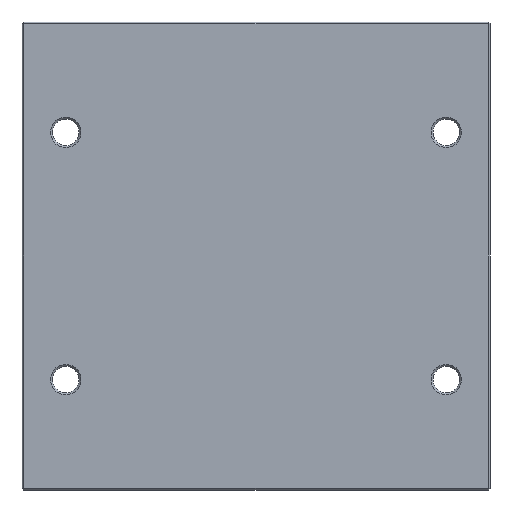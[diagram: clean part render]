
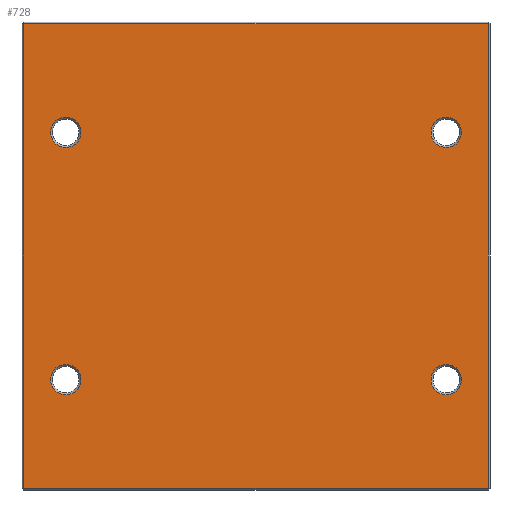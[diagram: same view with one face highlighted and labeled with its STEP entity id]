
A CAD part, front view. The second image highlights one B-rep face of the part: STEP entity #728.
In plain terms, the highlighted planar face has unit normal (0, -1, 0).
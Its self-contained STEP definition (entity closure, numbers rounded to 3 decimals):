
#14 = DIRECTION ( 'NONE',  ( 0., 0., 1. ) ) ;
#36 = CARTESIAN_POINT ( 'NONE',  ( 122., 0., 0. ) ) ;
#40 = CARTESIAN_POINT ( 'NONE',  ( -122., 0., -122. ) ) ;
#43 = DIRECTION ( 'NONE',  ( 0., 0., 1. ) ) ;
#46 = LINE ( 'NONE', #891, #732 ) ;
#56 = CARTESIAN_POINT ( 'NONE',  ( 100., 0., 65. ) ) ;
#64 = ORIENTED_EDGE ( 'NONE', *, *, #1233, .T. ) ;
#68 = CARTESIAN_POINT ( 'NONE',  ( 100., 0., 65. ) ) ;
#96 = DIRECTION ( 'NONE',  ( 0., 1., 0. ) ) ;
#103 = CARTESIAN_POINT ( 'NONE',  ( 0., 0., 0. ) ) ;
#142 = ORIENTED_EDGE ( 'NONE', *, *, #1007, .T. ) ;
#164 = DIRECTION ( 'NONE',  ( 0., 1., 0. ) ) ;
#203 = DIRECTION ( 'NONE',  ( 0., 0., 1. ) ) ;
#216 = FACE_BOUND ( 'NONE', #1556, .T. ) ;
#219 = DIRECTION ( 'NONE',  ( 0., 0., 1. ) ) ;
#225 = ORIENTED_EDGE ( 'NONE', *, *, #1225, .T. ) ;
#242 = CARTESIAN_POINT ( 'NONE',  ( -100., 0., -65. ) ) ;
#249 = DIRECTION ( 'NONE',  ( 0., 1., 0. ) ) ;
#268 = DIRECTION ( 'NONE',  ( 0., 0., 1. ) ) ;
#283 = AXIS2_PLACEMENT_3D ( 'NONE', #425, #373, #203 ) ;
#317 = ORIENTED_EDGE ( 'NONE', *, *, #1163, .T. ) ;
#341 = CARTESIAN_POINT ( 'NONE',  ( 100., 0., -73. ) ) ;
#373 = DIRECTION ( 'NONE',  ( 0., 1., 0. ) ) ;
#377 = EDGE_LOOP ( 'NONE', ( #142, #433 ) ) ;
#383 = EDGE_CURVE ( 'NONE', #1360, #664, #1285, .T. ) ;
#388 = VERTEX_POINT ( 'NONE', #341 ) ;
#401 = AXIS2_PLACEMENT_3D ( 'NONE', #68, #975, #980 ) ;
#410 = CIRCLE ( 'NONE', #1302, 8. ) ;
#425 = CARTESIAN_POINT ( 'NONE',  ( -100., 0., -65. ) ) ;
#429 = CIRCLE ( 'NONE', #814, 8. ) ;
#433 = ORIENTED_EDGE ( 'NONE', *, *, #1375, .T. ) ;
#438 = CARTESIAN_POINT ( 'NONE',  ( -122., 0., 122. ) ) ;
#461 = VERTEX_POINT ( 'NONE', #438 ) ;
#485 = AXIS2_PLACEMENT_3D ( 'NONE', #56, #96, #43 ) ;
#494 = VECTOR ( 'NONE', #994, 1000. ) ;
#498 = CARTESIAN_POINT ( 'NONE',  ( 100., 0., 57. ) ) ;
#515 = AXIS2_PLACEMENT_3D ( 'NONE', #103, #1084, #219 ) ;
#533 = CIRCLE ( 'NONE', #735, 8. ) ;
#547 = FACE_BOUND ( 'NONE', #679, .T. ) ;
#570 = CIRCLE ( 'NONE', #782, 8. ) ;
#592 = FACE_BOUND ( 'NONE', #1566, .T. ) ;
#622 = EDGE_CURVE ( 'NONE', #388, #889, #717, .T. ) ;
#627 = AXIS2_PLACEMENT_3D ( 'NONE', #955, #960, #986 ) ;
#660 = CARTESIAN_POINT ( 'NONE',  ( -100., 0., 65. ) ) ;
#664 = VERTEX_POINT ( 'NONE', #1094 ) ;
#679 = EDGE_LOOP ( 'NONE', ( #317, #707 ) ) ;
#707 = ORIENTED_EDGE ( 'NONE', *, *, #984, .T. ) ;
#717 = CIRCLE ( 'NONE', #627, 8. ) ;
#728 = ADVANCED_FACE ( 'NONE', ( #216, #592, #1197, #547, #1512 ), #1622, .F. ) ;
#732 = VECTOR ( 'NONE', #1031, 1000. ) ;
#735 = AXIS2_PLACEMENT_3D ( 'NONE', #242, #249, #268 ) ;
#745 = VERTEX_POINT ( 'NONE', #1502 ) ;
#763 = CARTESIAN_POINT ( 'NONE',  ( -100., 0., 57. ) ) ;
#774 = ORIENTED_EDGE ( 'NONE', *, *, #1196, .T. ) ;
#782 = AXIS2_PLACEMENT_3D ( 'NONE', #852, #869, #892 ) ;
#795 = EDGE_CURVE ( 'NONE', #922, #1523, #1157, .T. ) ;
#814 = AXIS2_PLACEMENT_3D ( 'NONE', #1379, #1254, #1246 ) ;
#833 = CIRCLE ( 'NONE', #485, 8. ) ;
#835 = VECTOR ( 'NONE', #14, 1000. ) ;
#852 = CARTESIAN_POINT ( 'NONE',  ( -100., 0., 65. ) ) ;
#855 = ORIENTED_EDGE ( 'NONE', *, *, #1020, .T. ) ;
#869 = DIRECTION ( 'NONE',  ( 0., 1., 0. ) ) ;
#873 = LINE ( 'NONE', #36, #835 ) ;
#883 = VERTEX_POINT ( 'NONE', #763 ) ;
#889 = VERTEX_POINT ( 'NONE', #1143 ) ;
#891 = CARTESIAN_POINT ( 'NONE',  ( 0., 0., 122. ) ) ;
#892 = DIRECTION ( 'NONE',  ( 0., 0., 1. ) ) ;
#906 = CIRCLE ( 'NONE', #283, 8. ) ;
#922 = VERTEX_POINT ( 'NONE', #498 ) ;
#955 = CARTESIAN_POINT ( 'NONE',  ( 100., 0., -65. ) ) ;
#960 = DIRECTION ( 'NONE',  ( 0., 1., 0. ) ) ;
#971 = CARTESIAN_POINT ( 'NONE',  ( -122., 0., 0. ) ) ;
#975 = DIRECTION ( 'NONE',  ( 0., 1., 0. ) ) ;
#980 = DIRECTION ( 'NONE',  ( 0., 0., 1. ) ) ;
#984 = EDGE_CURVE ( 'NONE', #745, #1077, #533, .T. ) ;
#986 = DIRECTION ( 'NONE',  ( 0., 0., 1. ) ) ;
#994 = DIRECTION ( 'NONE',  ( 0., 0., -1. ) ) ;
#1007 = EDGE_CURVE ( 'NONE', #883, #1092, #570, .T. ) ;
#1020 = EDGE_CURVE ( 'NONE', #461, #1360, #1139, .T. ) ;
#1030 = DIRECTION ( 'NONE',  ( 0., 0., 1. ) ) ;
#1031 = DIRECTION ( 'NONE',  ( -1., 0., 0. ) ) ;
#1077 = VERTEX_POINT ( 'NONE', #1660 ) ;
#1084 = DIRECTION ( 'NONE',  ( 0., 1., 0. ) ) ;
#1092 = VERTEX_POINT ( 'NONE', #1107 ) ;
#1093 = CARTESIAN_POINT ( 'NONE',  ( 122., 0., 122. ) ) ;
#1094 = CARTESIAN_POINT ( 'NONE',  ( 122., 0., -122. ) ) ;
#1107 = CARTESIAN_POINT ( 'NONE',  ( -100., 0., 73. ) ) ;
#1139 = LINE ( 'NONE', #971, #494 ) ;
#1143 = CARTESIAN_POINT ( 'NONE',  ( 100., 0., -57. ) ) ;
#1157 = CIRCLE ( 'NONE', #401, 8. ) ;
#1163 = EDGE_CURVE ( 'NONE', #1077, #745, #906, .T. ) ;
#1196 = EDGE_CURVE ( 'NONE', #664, #1592, #873, .T. ) ;
#1197 = FACE_BOUND ( 'NONE', #377, .T. ) ;
#1225 = EDGE_CURVE ( 'NONE', #889, #388, #429, .T. ) ;
#1233 = EDGE_CURVE ( 'NONE', #1592, #461, #46, .T. ) ;
#1246 = DIRECTION ( 'NONE',  ( 0., 0., 1. ) ) ;
#1248 = EDGE_LOOP ( 'NONE', ( #774, #64, #855, #1346 ) ) ;
#1254 = DIRECTION ( 'NONE',  ( 0., 1., 0. ) ) ;
#1256 = ORIENTED_EDGE ( 'NONE', *, *, #795, .T. ) ;
#1276 = DIRECTION ( 'NONE',  ( 1., 0., 0. ) ) ;
#1285 = LINE ( 'NONE', #1434, #1611 ) ;
#1302 = AXIS2_PLACEMENT_3D ( 'NONE', #660, #164, #1030 ) ;
#1310 = ORIENTED_EDGE ( 'NONE', *, *, #1496, .T. ) ;
#1346 = ORIENTED_EDGE ( 'NONE', *, *, #383, .T. ) ;
#1360 = VERTEX_POINT ( 'NONE', #40 ) ;
#1375 = EDGE_CURVE ( 'NONE', #1092, #883, #410, .T. ) ;
#1379 = CARTESIAN_POINT ( 'NONE',  ( 100., 0., -65. ) ) ;
#1434 = CARTESIAN_POINT ( 'NONE',  ( 0., 0., -122. ) ) ;
#1496 = EDGE_CURVE ( 'NONE', #1523, #922, #833, .T. ) ;
#1502 = CARTESIAN_POINT ( 'NONE',  ( -100., 0., -57. ) ) ;
#1512 = FACE_OUTER_BOUND ( 'NONE', #1248, .T. ) ;
#1523 = VERTEX_POINT ( 'NONE', #1569 ) ;
#1524 = ORIENTED_EDGE ( 'NONE', *, *, #622, .T. ) ;
#1556 = EDGE_LOOP ( 'NONE', ( #1524, #225 ) ) ;
#1566 = EDGE_LOOP ( 'NONE', ( #1256, #1310 ) ) ;
#1569 = CARTESIAN_POINT ( 'NONE',  ( 100., 0., 73. ) ) ;
#1592 = VERTEX_POINT ( 'NONE', #1093 ) ;
#1611 = VECTOR ( 'NONE', #1276, 1000. ) ;
#1622 = PLANE ( 'NONE',  #515 ) ;
#1660 = CARTESIAN_POINT ( 'NONE',  ( -100., 0., -73. ) ) ;
